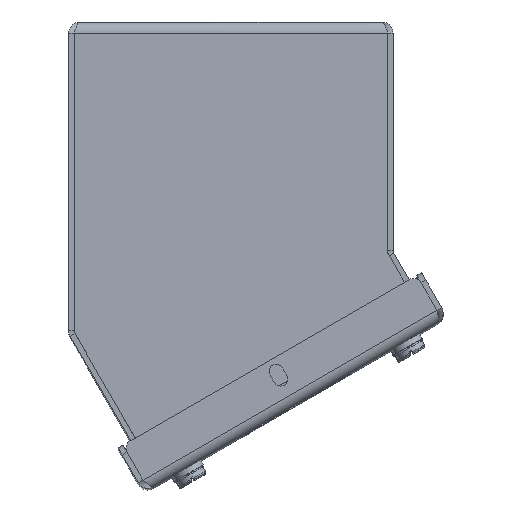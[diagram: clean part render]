
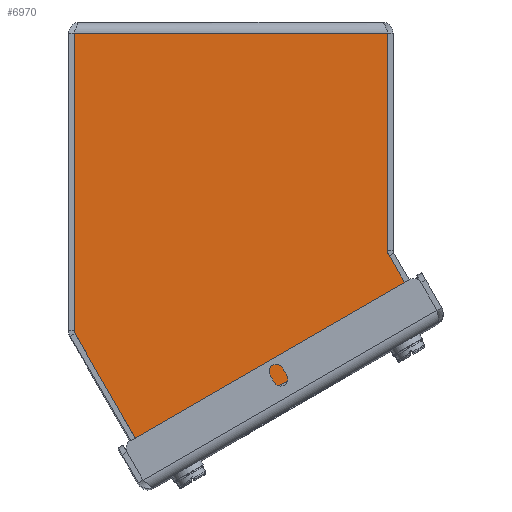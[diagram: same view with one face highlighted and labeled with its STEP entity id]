
A CAD part, top view. The second image highlights one B-rep face of the part: STEP entity #6970.
In plain terms, the highlighted planar face has unit normal (0, 0, 1).
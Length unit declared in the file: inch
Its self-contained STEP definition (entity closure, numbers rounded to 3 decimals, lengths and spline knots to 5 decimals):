
#1866=DIRECTION('',(-1.,0.,0.));
#1867=VECTOR('',#1866,3.412);
#1868=CARTESIAN_POINT('',(1.706,2.3803,5.));
#1869=LINE('',#1868,#1867);
#1998=CARTESIAN_POINT('',(-1.676,-0.86767,5.));
#1999=DIRECTION('',(0.,0.,1.));
#2000=DIRECTION('',(-1.,0.,0.));
#2001=AXIS2_PLACEMENT_3D('',#1998,#1999,#2000);
#2006=DIRECTION('',(-0.5,0.866,0.));
#2007=VECTOR('',#2006,0.68362);
#2008=CARTESIAN_POINT('',(2.05183,-0.6148,5.));
#2009=LINE('',#2008,#2007);
#2013=CARTESIAN_POINT('',(2.02585,-0.6298,5.));
#2014=DIRECTION('',(0.,0.,1.));
#2015=DIRECTION('',(0.5,-0.866,0.));
#2016=AXIS2_PLACEMENT_3D('',#2013,#2014,#2015);
#2021=DIRECTION('',(0.866,0.5,0.));
#2022=VECTOR('',#2021,0.64524);
#2023=CARTESIAN_POINT('',(1.48205,-0.97841,5.));
#2024=LINE('',#2023,#2022);
#2028=DIRECTION('',(-0.643,0.766,0.));
#2029=VECTOR('',#2028,0.06194);
#2030=CARTESIAN_POINT('',(1.48205,-0.97841,5.));
#2031=LINE('',#2030,#2029);
#2035=DIRECTION('',(0.866,0.5,0.));
#2036=VECTOR('',#2035,0.015);
#2037=CARTESIAN_POINT('',(1.42925,-0.93846,5.));
#2038=LINE('',#2037,#2036);
#2042=DIRECTION('',(-0.866,-0.5,0.));
#2043=VECTOR('',#2042,0.015);
#2044=CARTESIAN_POINT('',(-0.28793,-1.92987,5.));
#2045=LINE('',#2044,#2043);
#2049=DIRECTION('',(-0.342,0.94,0.));
#2050=VECTOR('',#2049,0.06194);
#2051=CARTESIAN_POINT('',(-0.27974,-1.99558,5.));
#2052=LINE('',#2051,#2050);
#2056=DIRECTION('',(0.866,0.5,0.));
#2057=VECTOR('',#2056,0.64524);
#2058=CARTESIAN_POINT('',(-0.83854,-2.3182,5.));
#2059=LINE('',#2058,#2057);
#2063=CARTESIAN_POINT('',(-0.85354,-2.29222,5.));
#2064=DIRECTION('',(0.,0.,1.));
#2065=DIRECTION('',(-0.866,-0.5,0.));
#2066=AXIS2_PLACEMENT_3D('',#2063,#2064,#2065);
#2071=DIRECTION('',(0.5,-0.866,0.));
#2072=VECTOR('',#2071,1.64493);
#2073=CARTESIAN_POINT('',(-1.70198,-0.88267,5.));
#2074=LINE('',#2073,#2072);
#2189=DIRECTION('',(-0.866,-0.5,0.));
#2190=VECTOR('',#2189,1.98283);
#2191=CARTESIAN_POINT('',(1.42925,-0.93846,5.));
#2192=LINE('',#2191,#2190);
#2359=CARTESIAN_POINT('',(1.736,-0.00777,5.));
#2360=DIRECTION('',(0.,0.,-1.));
#2361=DIRECTION('',(-0.866,-0.5,0.));
#2362=AXIS2_PLACEMENT_3D('',#2359,#2360,#2361);
#2382=DIRECTION('',(0.,1.,0.));
#2383=VECTOR('',#2382,2.38807);
#2384=CARTESIAN_POINT('',(1.706,-0.00777,5.));
#2385=LINE('',#2384,#2383);
#3473=DIRECTION('',(0.,-1.,0.));
#3474=VECTOR('',#3473,3.24797);
#3475=CARTESIAN_POINT('',(-1.706,2.3803,5.));
#3476=LINE('',#3475,#3474);
#4031=CARTESIAN_POINT('',(1.706,2.3803,5.));
#4033=VERTEX_POINT('',#4031);
#4035=CARTESIAN_POINT('',(-1.706,2.3803,5.));
#4037=VERTEX_POINT('',#4035);
#4175=CARTESIAN_POINT('',(1.42925,-0.93846,5.));
#4176=CARTESIAN_POINT('',(1.44224,-0.93096,5.));
#4177=VERTEX_POINT('',#4175);
#4178=VERTEX_POINT('',#4176);
#4179=CARTESIAN_POINT('',(1.48205,-0.97841,5.));
#4180=VERTEX_POINT('',#4179);
#4187=CARTESIAN_POINT('',(-0.28793,-1.92987,5.));
#4188=CARTESIAN_POINT('',(-0.30092,-1.93737,5.));
#4189=VERTEX_POINT('',#4187);
#4190=VERTEX_POINT('',#4188);
#4191=CARTESIAN_POINT('',(-0.27974,-1.99558,5.));
#4192=VERTEX_POINT('',#4191);
#4351=CARTESIAN_POINT('',(1.71002,-0.02277,5.));
#4353=VERTEX_POINT('',#4351);
#4355=CARTESIAN_POINT('',(1.706,-0.00777,5.));
#4357=VERTEX_POINT('',#4355);
#4359=CARTESIAN_POINT('',(-1.706,-0.86767,5.));
#4360=CARTESIAN_POINT('',(-1.70198,-0.88267,5.));
#4361=VERTEX_POINT('',#4359);
#4362=VERTEX_POINT('',#4360);
#4379=CARTESIAN_POINT('',(-0.87952,-2.30722,5.));
#4380=VERTEX_POINT('',#4379);
#4383=CARTESIAN_POINT('',(-0.83854,-2.3182,5.));
#4384=VERTEX_POINT('',#4383);
#4399=CARTESIAN_POINT('',(2.04085,-0.65578,5.));
#4400=CARTESIAN_POINT('',(2.05183,-0.6148,5.));
#4401=VERTEX_POINT('',#4399);
#4402=VERTEX_POINT('',#4400);
#6932=CARTESIAN_POINT('',(0.,0.,5.));
#6933=DIRECTION('',(0.,0.,1.));
#6934=DIRECTION('',(1.,0.,0.));
#6935=AXIS2_PLACEMENT_3D('',#6932,#6933,#6934);
#6936=PLANE('',#6935);
#6938=ORIENTED_EDGE('',*,*,#6937,.F.);
#6940=ORIENTED_EDGE('',*,*,#6939,.F.);
#6941=ORIENTED_EDGE('',*,*,#6923,.F.);
#6943=ORIENTED_EDGE('',*,*,#6942,.F.);
#6945=ORIENTED_EDGE('',*,*,#6944,.F.);
#6947=ORIENTED_EDGE('',*,*,#6946,.F.);
#6949=ORIENTED_EDGE('',*,*,#6948,.F.);
#6951=ORIENTED_EDGE('',*,*,#6950,.F.);
#6953=ORIENTED_EDGE('',*,*,#6952,.T.);
#6955=ORIENTED_EDGE('',*,*,#6954,.F.);
#6957=ORIENTED_EDGE('',*,*,#6956,.T.);
#6959=ORIENTED_EDGE('',*,*,#6958,.T.);
#6961=ORIENTED_EDGE('',*,*,#6960,.F.);
#6963=ORIENTED_EDGE('',*,*,#6962,.F.);
#6965=ORIENTED_EDGE('',*,*,#6964,.F.);
#6967=ORIENTED_EDGE('',*,*,#6966,.F.);
#6968=EDGE_LOOP('',(#6938,#6940,#6941,#6943,#6945,#6947,#6949,#6951,#6953,#6955,
#6957,#6959,#6961,#6963,#6965,#6967));
#6969=FACE_OUTER_BOUND('',#6968,.F.);
#2002=CIRCLE('',#2001,0.03);
#2017=CIRCLE('',#2016,0.03);
#2067=CIRCLE('',#2066,0.03);
#2363=CIRCLE('',#2362,0.03);
#6923=EDGE_CURVE('',#4033,#4037,#1869,.T.);
#6937=EDGE_CURVE('',#4361,#4362,#2002,.T.);
#6939=EDGE_CURVE('',#4037,#4361,#3476,.T.);
#6942=EDGE_CURVE('',#4357,#4033,#2385,.T.);
#6944=EDGE_CURVE('',#4353,#4357,#2363,.T.);
#6946=EDGE_CURVE('',#4402,#4353,#2009,.T.);
#6948=EDGE_CURVE('',#4401,#4402,#2017,.T.);
#6950=EDGE_CURVE('',#4180,#4401,#2024,.T.);
#6952=EDGE_CURVE('',#4180,#4178,#2031,.T.);
#6954=EDGE_CURVE('',#4177,#4178,#2038,.T.);
#6956=EDGE_CURVE('',#4177,#4189,#2192,.T.);
#6958=EDGE_CURVE('',#4189,#4190,#2045,.T.);
#6960=EDGE_CURVE('',#4192,#4190,#2052,.T.);
#6962=EDGE_CURVE('',#4384,#4192,#2059,.T.);
#6964=EDGE_CURVE('',#4380,#4384,#2067,.T.);
#6966=EDGE_CURVE('',#4362,#4380,#2074,.T.);
#6970=ADVANCED_FACE('',(#6969),#6936,.T.);
